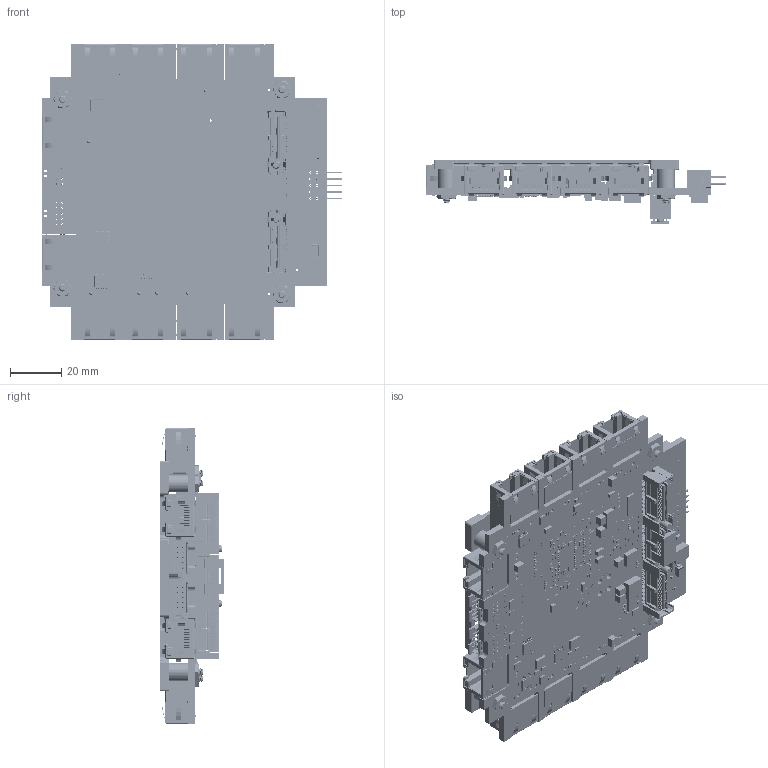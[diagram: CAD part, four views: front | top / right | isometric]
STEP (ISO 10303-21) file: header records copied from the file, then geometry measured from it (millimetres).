
FILE_DESCRIPTION (( 'STEP AP214' ), '1' );
FILE_NAME ('Assembly(0.01) Conduction Cooled XDG022.STEP', '2016-03-31T18:50:46', ( '' ), ( '' ), 'SwSTEP 2.0', 'SolidWorks 2015', '' );
FILE_SCHEMA (( 'AUTOMOTIVE_DESIGN' ));
Length unit declared in the file: inch
Products named in the file (8): 92146A530 Lockwasher, #4, Split, SS_92146A530; 91841A005 Nut, 4-40, SS_91841A005; 91772A111 Screw, 4-40X.563 PPHMS, SS_91772A111; XDG010_3D_MODEL; CTIA-00575 REV 0.01  Heat Plate - Top, Conduction Cooled XDG; Assembly(0.01) Conduction Cooled XDG022; 21464 Loctite 222 Threadlocker; GR45A-0H-50GY Thermal Pad, 1.00X1.00_50GR-ae
Assembly tree (15 placements, depth 2):
  Assembly(0.01) Conduction Cooled XDG022
    CTIA-00575 REV 0.01  Heat Plate - Top, Conduction Cooled XDG
    XDG010_3D_MODEL
    91772A111 Screw, 4-40X.563 PPHMS, SS_91772A111  x4
    91841A005 Nut, 4-40, SS_91841A005  x4
    92146A530 Lockwasher, #4, Split, SS_92146A530  x4
    GR45A-0H-50GY Thermal Pad, 1.00X1.00_50GR-ae
  21464 Loctite 222 Threadlocker
Bounding box: 117.42 x 25.06 x 115.57 mm (x, y, z)
Volume: 27865.7 mm3; surface area: 99014.2 mm2
Topology: 14 solids, 2138 shells, 18226 faces, 90549 edges, 71703 vertices
Faces by surface type: plane 13682, cylinder 3929, bspline 316, cone 275, torus 16, sphere 8
Entity records: 1099277 total; most frequent: CARTESIAN_POINT 193733, DIRECTION 140750, ORIENTED_EDGE 119054, EDGE_CURVE 88710, VERTEX_POINT 70546, LINE 67118, VECTOR 67118, AXIS2_PLACEMENT_3D 36816
